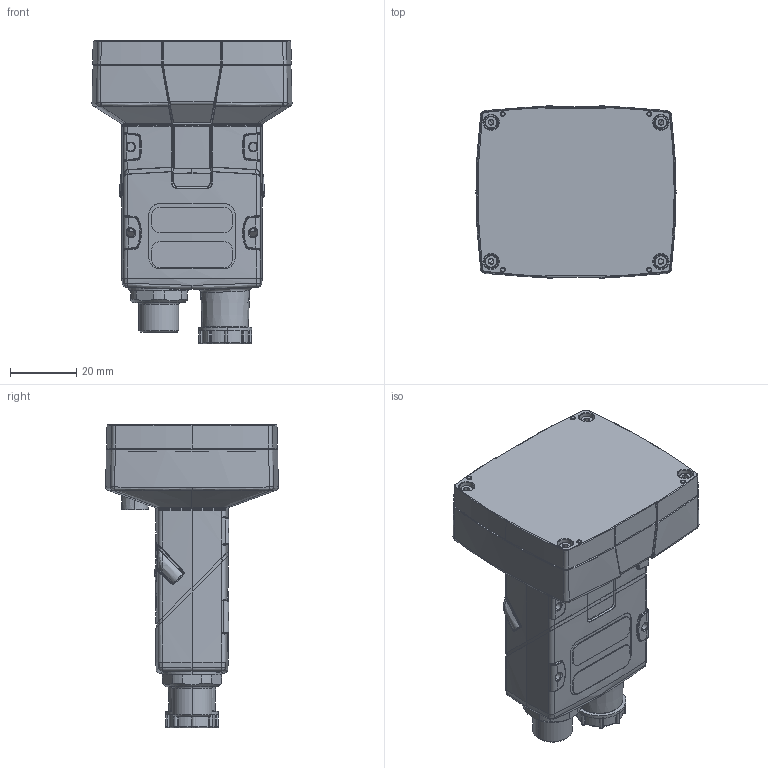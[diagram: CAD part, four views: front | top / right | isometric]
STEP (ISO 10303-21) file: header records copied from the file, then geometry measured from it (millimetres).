
FILE_DESCRIPTION (( 'STEP AP214' ), '1' );
FILE_NAME ('IS2000_Marketing.STEP', '2015-12-08T22:15:38', ( 'Cognoid' ), ( 'Microsoft' ), 'SwSTEP 2.0', 'SolidWorks 2014', '' );
FILE_SCHEMA (( 'AUTOMOTIVE_DESIGN' ));
Length unit declared in the file: millimetre
Products named in the file (1): IS2000_Marketing
Bounding box: 60.39 x 52.17 x 91.71 mm (x, y, z)
Surface area: 21840.6 mm2 (no closed solid volume)
Topology: 0 solids, 51 shells, 1079 faces, 3632 edges, 2515 vertices
Faces by surface type: bspline 421, cylinder 271, plane 205, cone 108, torus 70, sphere 4
Entity records: 66643 total; most frequent: CARTESIAN_POINT 28405, ORIENTED_EDGE 5823, DIRECTION 4141, EDGE_CURVE 3602, VERTEX_POINT 2515, AXIS2_PLACEMENT_3D 1578, B_SPLINE_CURVE_WITH_KNOTS 1502, EDGE_LOOP 1168
